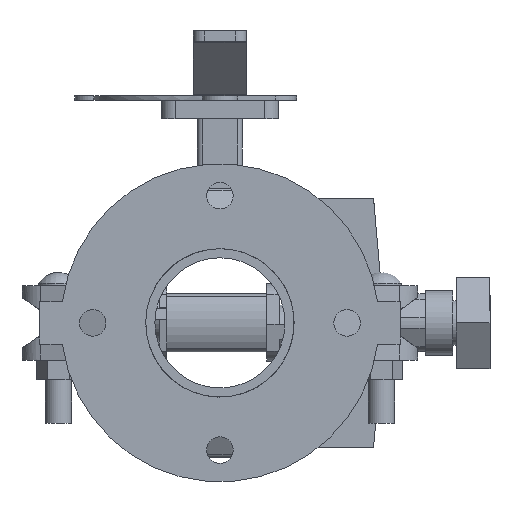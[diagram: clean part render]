
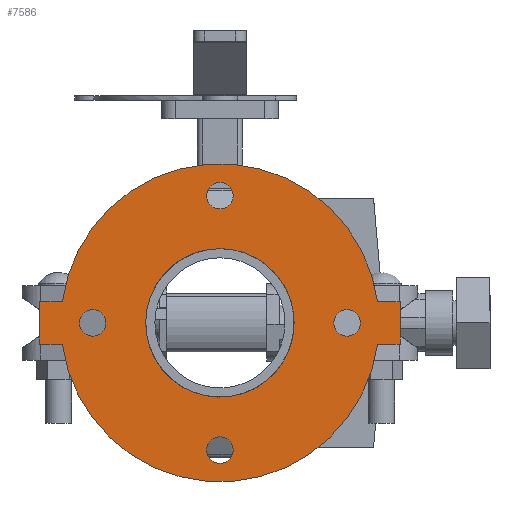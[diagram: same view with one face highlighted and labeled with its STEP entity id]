
A CAD part, front view. The second image highlights one B-rep face of the part: STEP entity #7586.
In plain terms, the highlighted planar face has unit normal (0, -1, 0) as drawn and (0, 0, -1) by its records, which use the part's own axes.
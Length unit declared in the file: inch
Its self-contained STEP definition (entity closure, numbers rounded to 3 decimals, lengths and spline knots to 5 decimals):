
#170=FACE_BOUND('',#932,.T.);
#171=FACE_BOUND('',#933,.T.);
#172=FACE_BOUND('',#934,.T.);
#173=FACE_BOUND('',#935,.T.);
#174=FACE_BOUND('',#936,.T.);
#262=PLANE('',#8215);
#510=FACE_OUTER_BOUND('',#931,.T.);
#931=EDGE_LOOP('',(#4856,#4857,#4858,#4859,#4860,#4861,#4862,#4863));
#932=EDGE_LOOP('',(#4864));
#933=EDGE_LOOP('',(#4865));
#934=EDGE_LOOP('',(#4866));
#935=EDGE_LOOP('',(#4867));
#936=EDGE_LOOP('',(#4868,#4869));
#1444=LINE('',#11508,#2023);
#1445=LINE('',#11510,#2024);
#1446=LINE('',#11512,#2025);
#1447=LINE('',#11516,#2026);
#1448=LINE('',#11518,#2027);
#1449=LINE('',#11519,#2028);
#2023=VECTOR('',#9136,0.3937);
#2024=VECTOR('',#9137,0.3937);
#2025=VECTOR('',#9138,0.3937);
#2026=VECTOR('',#9141,0.3937);
#2027=VECTOR('',#9142,0.3937);
#2028=VECTOR('',#9143,0.3937);
#2599=CIRCLE('',#8205,0.3125);
#2601=CIRCLE('',#8208,0.3125);
#2603=CIRCLE('',#8211,0.3125);
#2605=CIRCLE('',#8214,0.3125);
#2606=CIRCLE('',#8216,3.75);
#2607=CIRCLE('',#8217,3.75);
#2608=CIRCLE('',#8218,1.75);
#2609=CIRCLE('',#8219,1.75);
#3034=VERTEX_POINT('',#11482);
#3036=VERTEX_POINT('',#11488);
#3038=VERTEX_POINT('',#11494);
#3040=VERTEX_POINT('',#11500);
#3041=VERTEX_POINT('',#11504);
#3042=VERTEX_POINT('',#11505);
#3043=VERTEX_POINT('',#11507);
#3044=VERTEX_POINT('',#11509);
#3045=VERTEX_POINT('',#11511);
#3046=VERTEX_POINT('',#11513);
#3047=VERTEX_POINT('',#11515);
#3048=VERTEX_POINT('',#11517);
#3049=VERTEX_POINT('',#11520);
#3050=VERTEX_POINT('',#11521);
#3761=EDGE_CURVE('',#3034,#3034,#2599,.T.);
#3764=EDGE_CURVE('',#3036,#3036,#2601,.T.);
#3767=EDGE_CURVE('',#3038,#3038,#2603,.T.);
#3770=EDGE_CURVE('',#3040,#3040,#2605,.T.);
#3771=EDGE_CURVE('',#3041,#3042,#2606,.T.);
#3772=EDGE_CURVE('',#3042,#3043,#1444,.T.);
#3773=EDGE_CURVE('',#3043,#3044,#1445,.T.);
#3774=EDGE_CURVE('',#3044,#3045,#1446,.T.);
#3775=EDGE_CURVE('',#3045,#3046,#2607,.T.);
#3776=EDGE_CURVE('',#3046,#3047,#1447,.T.);
#3777=EDGE_CURVE('',#3047,#3048,#1448,.T.);
#3778=EDGE_CURVE('',#3048,#3041,#1449,.T.);
#3779=EDGE_CURVE('',#3049,#3050,#2608,.T.);
#3780=EDGE_CURVE('',#3050,#3049,#2609,.T.);
#4856=ORIENTED_EDGE('',*,*,#3771,.T.);
#4857=ORIENTED_EDGE('',*,*,#3772,.T.);
#4858=ORIENTED_EDGE('',*,*,#3773,.T.);
#4859=ORIENTED_EDGE('',*,*,#3774,.T.);
#4860=ORIENTED_EDGE('',*,*,#3775,.T.);
#4861=ORIENTED_EDGE('',*,*,#3776,.T.);
#4862=ORIENTED_EDGE('',*,*,#3777,.T.);
#4863=ORIENTED_EDGE('',*,*,#3778,.T.);
#4864=ORIENTED_EDGE('',*,*,#3761,.T.);
#4865=ORIENTED_EDGE('',*,*,#3764,.T.);
#4866=ORIENTED_EDGE('',*,*,#3767,.T.);
#4867=ORIENTED_EDGE('',*,*,#3770,.T.);
#4868=ORIENTED_EDGE('',*,*,#3779,.T.);
#4869=ORIENTED_EDGE('',*,*,#3780,.T.);
#7586=ADVANCED_FACE('',(#510,#170,#171,#172,#173,#174),#262,.T.);
#8205=AXIS2_PLACEMENT_3D('',#11484,#9109,#9110);
#8208=AXIS2_PLACEMENT_3D('',#11490,#9116,#9117);
#8211=AXIS2_PLACEMENT_3D('',#11496,#9123,#9124);
#8214=AXIS2_PLACEMENT_3D('',#11502,#9130,#9131);
#8215=AXIS2_PLACEMENT_3D('',#11503,#9132,#9133);
#8216=AXIS2_PLACEMENT_3D('',#11506,#9134,#9135);
#8217=AXIS2_PLACEMENT_3D('',#11514,#9139,#9140);
#8218=AXIS2_PLACEMENT_3D('',#11522,#9144,#9145);
#8219=AXIS2_PLACEMENT_3D('',#11523,#9146,#9147);
#9109=DIRECTION('center_axis',(0.,0.,1.));
#9110=DIRECTION('ref_axis',(0.,1.,0.));
#9116=DIRECTION('center_axis',(0.,0.,1.));
#9117=DIRECTION('ref_axis',(1.,0.,0.));
#9123=DIRECTION('center_axis',(0.,0.,1.));
#9124=DIRECTION('ref_axis',(0.,-1.,0.));
#9130=DIRECTION('center_axis',(0.,0.,1.));
#9131=DIRECTION('ref_axis',(-1.,0.,0.));
#9132=DIRECTION('center_axis',(0.,0.,-1.));
#9133=DIRECTION('ref_axis',(-1.,0.,0.));
#9134=DIRECTION('center_axis',(0.,0.,-1.));
#9135=DIRECTION('ref_axis',(-1.,0.,0.));
#9136=DIRECTION('',(0.,1.,0.));
#9137=DIRECTION('',(1.,0.,0.));
#9138=DIRECTION('',(0.,-1.,0.));
#9139=DIRECTION('center_axis',(0.,0.,-1.));
#9140=DIRECTION('ref_axis',(-1.,0.,0.));
#9141=DIRECTION('',(0.,-1.,0.));
#9142=DIRECTION('',(-1.,0.,0.));
#9143=DIRECTION('',(0.,1.,0.));
#9144=DIRECTION('center_axis',(0.,0.,1.));
#9145=DIRECTION('ref_axis',(-1.,0.,0.));
#9146=DIRECTION('center_axis',(0.,0.,1.));
#9147=DIRECTION('ref_axis',(-1.,0.,0.));
#11482=CARTESIAN_POINT('',(0.,2.6875,-0.5));
#11484=CARTESIAN_POINT('Origin',(0.,3.,-0.5));
#11488=CARTESIAN_POINT('',(2.6875,0.,-0.5));
#11490=CARTESIAN_POINT('Origin',(3.,0.,-0.5));
#11494=CARTESIAN_POINT('',(0.,-2.6875,-0.5));
#11496=CARTESIAN_POINT('Origin',(0.,-3.,-0.5));
#11500=CARTESIAN_POINT('',(-2.6875,0.,-0.5));
#11502=CARTESIAN_POINT('Origin',(-3.,0.,-0.5));
#11503=CARTESIAN_POINT('Origin',(0.,0.,-0.5));
#11504=CARTESIAN_POINT('',(-0.5,-3.71652,-0.5));
#11505=CARTESIAN_POINT('',(-0.5,3.71652,-0.5));
#11506=CARTESIAN_POINT('Origin',(0.,0.,-0.5));
#11507=CARTESIAN_POINT('',(-0.5,4.25,-0.5));
#11508=CARTESIAN_POINT('',(-0.5,-4.25,-0.5));
#11509=CARTESIAN_POINT('',(0.5,4.25,-0.5));
#11510=CARTESIAN_POINT('',(-0.5,4.25,-0.5));
#11511=CARTESIAN_POINT('',(0.5,3.71652,-0.5));
#11512=CARTESIAN_POINT('',(0.5,4.25,-0.5));
#11513=CARTESIAN_POINT('',(0.5,-3.71652,-0.5));
#11514=CARTESIAN_POINT('Origin',(0.,0.,-0.5));
#11515=CARTESIAN_POINT('',(0.5,-4.25,-0.5));
#11516=CARTESIAN_POINT('',(0.5,4.25,-0.5));
#11517=CARTESIAN_POINT('',(-0.5,-4.25,-0.5));
#11518=CARTESIAN_POINT('',(0.5,-4.25,-0.5));
#11519=CARTESIAN_POINT('',(-0.5,-4.25,-0.5));
#11520=CARTESIAN_POINT('',(0.5,1.67705,-0.5));
#11521=CARTESIAN_POINT('',(1.75,0.,-0.5));
#11522=CARTESIAN_POINT('Origin',(0.,0.,-0.5));
#11523=CARTESIAN_POINT('Origin',(0.,0.,-0.5));
